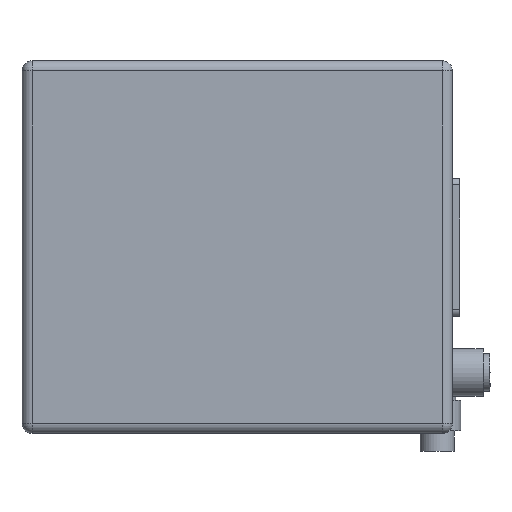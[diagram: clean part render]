
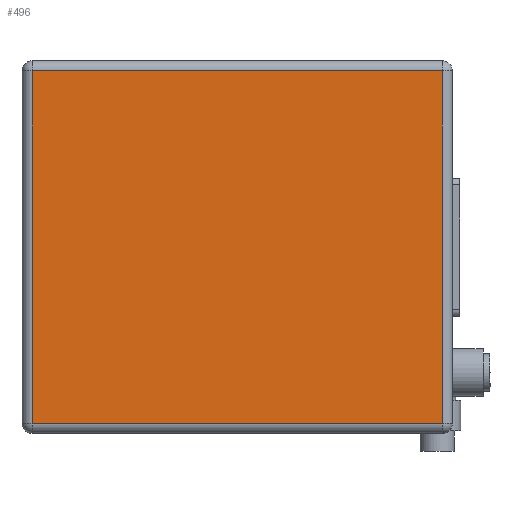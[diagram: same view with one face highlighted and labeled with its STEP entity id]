
A CAD part, left-side view. The second image highlights one B-rep face of the part: STEP entity #496.
In plain terms, the highlighted planar face has unit normal (-1, 0, 0).
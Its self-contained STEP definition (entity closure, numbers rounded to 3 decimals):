
#496 = ADVANCED_FACE( '', ( #1221 ), #1222, .F. );
#1221 = FACE_OUTER_BOUND( '', #2145, .T. );
#1222 = PLANE( '', #2146 );
#2145 = EDGE_LOOP( '', ( #4399, #4400, #4401, #4402 ) );
#2146 = AXIS2_PLACEMENT_3D( '', #4403, #4404, #4405 );
#4399 = ORIENTED_EDGE( '', *, *, #5967, .T. );
#4400 = ORIENTED_EDGE( '', *, *, #5968, .T. );
#4401 = ORIENTED_EDGE( '', *, *, #5969, .T. );
#4402 = ORIENTED_EDGE( '', *, *, #5963, .T. );
#4403 = CARTESIAN_POINT( '', ( -136.1, 122.5, -5.5 ) );
#4404 = DIRECTION( '', ( 1., 0., 0. ) );
#4405 = DIRECTION( '', ( 0., 1., 0. ) );
#5963 = EDGE_CURVE( '', #6436, #7465, #7467, .F. );
#5967 = EDGE_CURVE( '', #7465, #7470, #7472, .F. );
#5968 = EDGE_CURVE( '', #7470, #7473, #7474, .F. );
#5969 = EDGE_CURVE( '', #7473, #6436, #7475, .F. );
#6436 = VERTEX_POINT( '', #7866 );
#7465 = VERTEX_POINT( '', #9552 );
#7467 = LINE( '', #9554, #9555 );
#7470 = VERTEX_POINT( '', #9558 );
#7472 = LINE( '', #9560, #9561 );
#7473 = VERTEX_POINT( '', #9562 );
#7474 = LINE( '', #9563, #9564 );
#7475 = LINE( '', #9565, #9566 );
#7866 = CARTESIAN_POINT( '', ( -136.1, -1.5, -2.5 ) );
#9552 = CARTESIAN_POINT( '', ( -136.1, -1.5, 101.5 ) );
#9554 = CARTESIAN_POINT( '', ( -136.1, -1.5, 104.5 ) );
#9555 = VECTOR( '', #11015, 1000. );
#9558 = CARTESIAN_POINT( '', ( -136.1, 119.5, 101.5 ) );
#9560 = CARTESIAN_POINT( '', ( -136.1, 122.5, 101.5 ) );
#9561 = VECTOR( '', #11025, 1000. );
#9562 = CARTESIAN_POINT( '', ( -136.1, 119.5, -2.5 ) );
#9563 = CARTESIAN_POINT( '', ( -136.1, 119.5, -5.5 ) );
#9564 = VECTOR( '', #11026, 1000. );
#9565 = CARTESIAN_POINT( '', ( -136.1, -4.5, -2.5 ) );
#9566 = VECTOR( '', #11027, 1000. );
#11015 = DIRECTION( '', ( 0., 0., -1. ) );
#11025 = DIRECTION( '', ( 0., -1., 0. ) );
#11026 = DIRECTION( '', ( 0., 0., 1. ) );
#11027 = DIRECTION( '', ( 0., 1., 0. ) );
